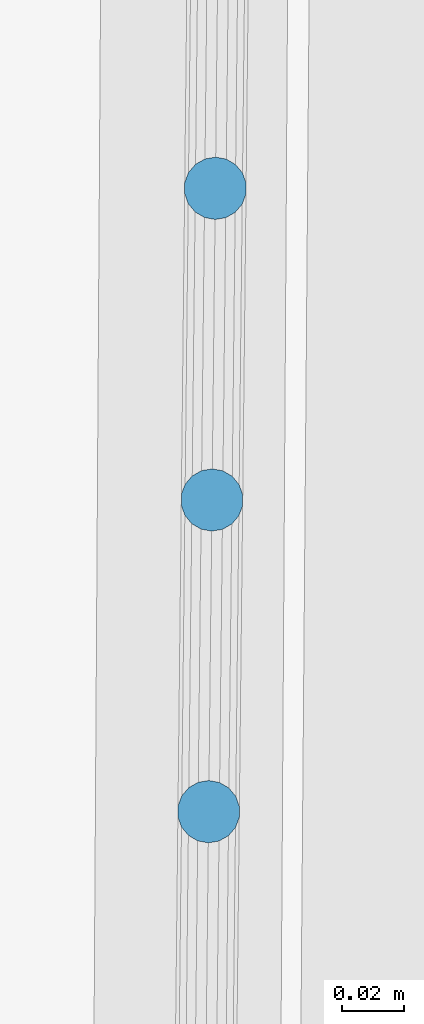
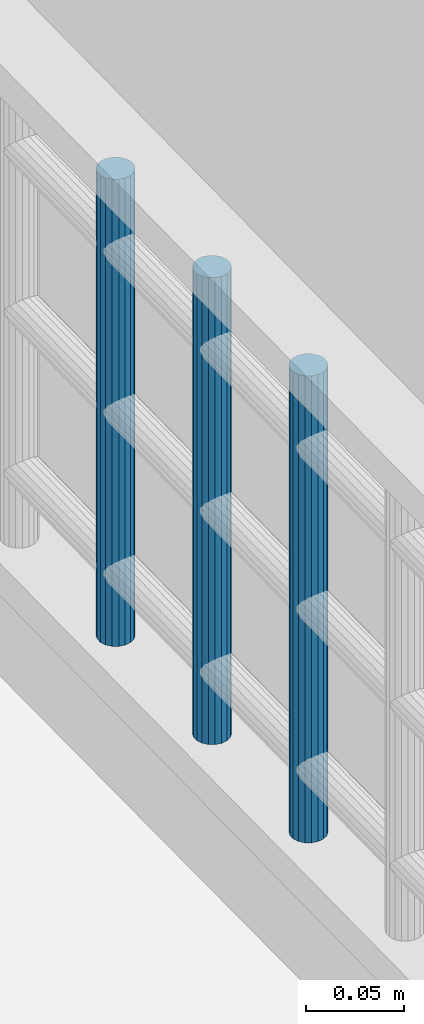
# One storey, part 38 of 97: 3 members, 1 element without a shape of its own.
"""IFC2X3 building model written with IfcOpenShell, lengths in centimetres."""

from ifc_helpers import new_model, entity, si_unit, converted_unit, direction, frame, origin, origin_with_axes, place, context, subcontext, project, spatial, faceted_brep, material, type_object, element, aggregate, save


model = new_model("IFC2X3")

# Units and contexts
model_context = context("Model", 3, precision=0.0001, world=origin(), true_north=direction((0.225632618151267, 0.974212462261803, 0.0)))
body_context = subcontext(model_context, "Body", "Model", "MODEL_VIEW")
ifc_project = project(units=[si_unit("LENGTHUNIT", "METRE", prefix="CENTI"), si_unit("AREAUNIT", "SQUARE_METRE", prefix="CENTI"), si_unit("VOLUMEUNIT", "CUBIC_METRE", prefix="CENTI"), converted_unit("PLANEANGLEUNIT", "DEGREE", entity("IfcRatioMeasure", 0.0174532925), si_unit("PLANEANGLEUNIT", "RADIAN"), dimensions=[0, 0, 0, 0, 0, 0, 0])], contexts=[model_context])

# Site, building, storey
site_placement = place(None, origin_with_axes())
site = spatial("IfcSite", under=ifc_project, at=site_placement, Name="Default Site", CompositionType="ELEMENT")
building_placement = place(site_placement, origin_with_axes())
building = spatial("IfcBuilding", under=site, at=building_placement, Name="Default Building", CompositionType="ELEMENT")
storey_placement = place(building_placement, origin_with_axes())
storey = spatial("IfcBuildingStorey", under=building, at=storey_placement, Name="Rez-de-chaussée", CompositionType="ELEMENT", Elevation=0.0)

# Assembly, members
building_element_proxy_type = type_object("IfcBuildingElementProxyType", Name="Type Object", PredefinedType="NOTDEFINED")
assembly_placement = place(storey_placement, frame((1067.41070761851, 134.057314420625, 12.0), z_axis=(0.0, 0.0, 1.0), x_axis=(-0.0108104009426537, -0.999941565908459, 0.0)))
assembly = element("IfcElementAssembly", 1, at=assembly_placement, inside=storey, type_object=building_element_proxy_type, Name="Panneau 1702033", ObjectType="Precast panel", PredefinedType="USERDEFINED")
ifc_material = material(Name="Aluminium satiné")
member_1_placement = place(assembly_placement, frame((46.9396919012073, 0.342020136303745, 31.0000002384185), z_axis=(0.0, 0.0, 1.0), x_axis=(0.499995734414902, -0.866027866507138, 0.0)))
member_1 = element("IfcMember", 2, at=member_1_placement, material=ifc_material, Name="4294967089", context=body_context, shape_type="Brep", body=[
    faceted_brep([(-9.54791801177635e-13, 5.71764857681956e-13, 4.9960036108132e-14), (-0.347295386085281, 5.71764857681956e-13, 4.9960036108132e-14), (-0.673647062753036, -0.118784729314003, 4.9960036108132e-14), (-0.93969117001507, -0.342025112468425, 4.9960036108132e-14), (-1.11333739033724, -0.642792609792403, 4.9960036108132e-14), (-1.17364232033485, -0.984811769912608, 4.9960036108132e-14), (-1.11333370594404, -1.3268323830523, 4.9960036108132e-14), (-0.939684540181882, -1.62759988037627, 4.9960036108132e-14), (-0.673639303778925, -1.85083688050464, 4.9960036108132e-14), (-0.347286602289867, -1.96961709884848, 4.9960036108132e-14), (1.02738978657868e-05, -1.9696145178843, 4.9960036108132e-14), (0.326361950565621, -1.85082978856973, 4.9960036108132e-14), (0.592404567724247, -1.62759198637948, 4.9960036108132e-14), (0.766050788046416, -1.3268244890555, 4.9960036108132e-14), (0.826357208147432, -0.984802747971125, 4.9960036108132e-14), (0.766048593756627, -0.642782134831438, 4.9960036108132e-14), (0.592397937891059, -0.34201721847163, 4.9960036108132e-14), (0.326352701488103, -0.118780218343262, 4.9960036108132e-14), (0.326352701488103, -0.118780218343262, -29.000000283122), (0.592397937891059, -0.34201721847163, -29.000000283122), (0.766048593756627, -0.642782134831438, -29.000000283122), (0.826357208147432, -0.984802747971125, -29.000000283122), (0.766050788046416, -1.3268244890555, -29.000000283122), (0.592404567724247, -1.62759198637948, -29.000000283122), (0.326361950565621, -1.85082978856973, -29.000000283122), (1.02738978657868e-05, -1.9696145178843, -29.000000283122), (-0.347286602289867, -1.96961709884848, -29.000000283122), (-0.673639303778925, -1.85083688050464, -29.000000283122), (-0.939684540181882, -1.62759988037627, -29.000000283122), (-1.11333370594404, -1.3268323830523, -29.000000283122), (-1.17364232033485, -0.984811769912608, -29.000000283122), (-1.11333739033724, -0.642792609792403, -29.000000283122), (-0.93969117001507, -0.342025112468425, -29.000000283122), (-0.673647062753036, -0.118784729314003, -29.000000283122), (-0.347295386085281, 5.71764857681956e-13, -29.000000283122), (-9.54791801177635e-13, 5.71764857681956e-13, -29.000000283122), (0.592398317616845, -0.342016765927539, 4.9960036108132e-14), (0.592398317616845, -0.342016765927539, -29.000000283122), (0.766047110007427, -0.642782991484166, 4.9960036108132e-14), (0.766047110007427, -0.642782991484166, -29.000000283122), (0.826357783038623, -0.984802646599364, 4.9960036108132e-14), (0.826357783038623, -0.984802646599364, -29.000000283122), (0.766051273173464, -1.32682457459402, 4.9960036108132e-14), (0.766051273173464, -1.32682457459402, -29.000000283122), (0.592404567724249, -1.62759198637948, 4.9960036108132e-14), (0.592404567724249, -1.62759198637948, -29.000000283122), (0.326362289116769, -1.85083019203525, 4.9960036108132e-14), (0.326362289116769, -1.85083019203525, -29.000000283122), (1.00742373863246e-05, -1.96961396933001, 4.9960036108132e-14), (1.00742373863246e-05, -1.96961396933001, -29.000000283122), (-0.347286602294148, -1.96961623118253, 4.9960036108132e-14), (-0.347286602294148, -1.96961623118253, -29.000000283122), (-0.673639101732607, -1.85083632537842, 4.9960036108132e-14), (-0.673639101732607, -1.85083632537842, -29.000000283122), (-0.939684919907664, -1.62760033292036, 4.9960036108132e-14), (-0.939684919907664, -1.62760033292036, -29.000000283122), (-1.11333445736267, -1.32683281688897, 4.9960036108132e-14), (-1.11333445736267, -1.32683281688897, -29.000000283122), (-1.17364289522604, -0.984811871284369, 4.9960036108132e-14), (-1.17364289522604, -0.984811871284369, -29.000000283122), (-1.11333687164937, -0.642792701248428, 4.9960036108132e-14), (-1.11333687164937, -0.642792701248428, -29.000000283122), (-0.939691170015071, -0.342025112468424, 4.9960036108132e-14), (-0.939691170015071, -0.342025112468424, -29.000000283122), (-0.673646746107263, -0.118785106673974, 4.9960036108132e-14), (-0.673646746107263, -0.118785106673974, -29.000000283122), (-0.347295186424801, -5.48553719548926e-07, 4.9960036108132e-14), (-0.347295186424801, -5.48553719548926e-07, -29.000000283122), (-9.40686381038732e-12, 1.71329144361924e-06, 4.9960036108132e-14), (-9.40686381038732e-12, 1.71329144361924e-06, -29.000000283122), (0.326352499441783, -0.118780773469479, 4.9960036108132e-14), (0.326352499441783, -0.118780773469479, -29.000000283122)], [[[0, 1, 2, 3, 4, 5, 6, 7, 8, 9, 10, 11, 12, 13, 14, 15, 16, 17]], [[18, 19, 20, 21, 22, 23, 24, 25, 26, 27, 28, 29, 30, 31, 32, 33, 34, 35]], [[17, 36, 37, 18]], [[16, 38, 39, 19]], [[15, 40, 41, 20]], [[14, 42, 43, 21]], [[13, 44, 45, 22]], [[12, 46, 47, 23]], [[11, 48, 49, 24]], [[10, 50, 51, 25]], [[9, 52, 53, 26]], [[8, 54, 55, 27]], [[7, 56, 57, 28]], [[6, 58, 59, 29]], [[5, 60, 61, 30]], [[4, 62, 63, 31]], [[3, 64, 65, 32]], [[2, 66, 67, 33]], [[1, 68, 69, 34]], [[0, 70, 71, 35]]]),
])
member_2_placement = place(assembly_placement, frame((56.9396913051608, 0.342020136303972, 31.0000002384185), z_axis=(0.0, 0.0, 1.0), x_axis=(0.499995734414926, -0.866027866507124, 0.0)))
member_2 = element("IfcMember", 3, at=member_2_placement, material=ifc_material, Name="4294967088", context=body_context, shape_type="Brep", body=[
    faceted_brep([(-8.10462807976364e-13, 3.60822483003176e-13, 4.9960036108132e-14), (-0.347295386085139, 3.60822483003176e-13, 4.9960036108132e-14), (-0.673647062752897, -0.118784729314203, 4.9960036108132e-14), (-0.939691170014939, -0.342025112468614, 4.9960036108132e-14), (-1.1133359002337, -0.642790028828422, 4.9960036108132e-14), (-1.17364232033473, -0.984811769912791, 4.9960036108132e-14), (-1.11333370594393, -1.32683238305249, 4.9960036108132e-14), (-0.939683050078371, -1.62759729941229, 4.9960036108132e-14), (-0.673637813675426, -1.85083429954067, 4.9960036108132e-14), (-0.347285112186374, -1.96961451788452, 4.9960036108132e-14), (1.02738979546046e-05, -1.96961451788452, 4.9960036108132e-14), (0.326361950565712, -1.85082978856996, 4.9960036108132e-14), (0.592406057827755, -1.62758940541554, 4.9960036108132e-14), (0.766050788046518, -1.32682448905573, 4.9960036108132e-14), (0.826357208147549, -0.984802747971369, 4.9960036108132e-14), (0.766048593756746, -0.642782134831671, 4.9960036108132e-14), (0.592397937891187, -0.342017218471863, 4.9960036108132e-14), (0.326352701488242, -0.118780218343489, 4.9960036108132e-14), (0.326352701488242, -0.118780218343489, -29.000000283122), (0.592397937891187, -0.342017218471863, -29.000000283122), (0.766048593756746, -0.642782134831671, -29.000000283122), (0.826357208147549, -0.984802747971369, -29.000000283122), (0.766050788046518, -1.32682448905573, -29.000000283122), (0.592406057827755, -1.62758940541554, -29.000000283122), (0.326361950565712, -1.85082978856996, -29.000000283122), (1.02738979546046e-05, -1.96961451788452, -29.000000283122), (-0.347285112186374, -1.96961451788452, -29.000000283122), (-0.673637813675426, -1.85083429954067, -29.000000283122), (-0.939683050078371, -1.62759729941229, -29.000000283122), (-1.11333370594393, -1.32683238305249, -29.000000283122), (-1.17364232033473, -0.984811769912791, -29.000000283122), (-1.1133359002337, -0.642790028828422, -29.000000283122), (-0.939691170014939, -0.342025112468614, -29.000000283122), (-0.673647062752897, -0.118784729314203, -29.000000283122), (-0.347295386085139, 3.60822483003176e-13, -29.000000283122), (-8.10462807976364e-13, 3.60822483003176e-13, -29.000000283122), (0.592398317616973, -0.342016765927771, 4.9960036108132e-14), (0.592398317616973, -0.342016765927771, -29.000000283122), (0.766047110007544, -0.642782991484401, 4.9960036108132e-14), (0.766047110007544, -0.642782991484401, -29.000000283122), (0.826357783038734, -0.984802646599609, 4.9960036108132e-14), (0.826357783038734, -0.984802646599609, -29.000000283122), (0.766051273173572, -1.32682457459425, 4.9960036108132e-14), (0.766051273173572, -1.32682457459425, -29.000000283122), (0.59240605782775, -1.62758940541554, 4.9960036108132e-14), (0.59240605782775, -1.62758940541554, -29.000000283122), (0.32636163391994, -1.85082941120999, 4.9960036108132e-14), (0.32636163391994, -1.85082941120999, -29.000000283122), (1.00742374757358e-05, -1.96961396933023, 4.9960036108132e-14), (1.00742374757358e-05, -1.96961396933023, -29.000000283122), (-0.347285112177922, -1.96961623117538, 4.9960036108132e-14), (-0.347285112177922, -1.96961623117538, -29.000000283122), (-0.673637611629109, -1.85083374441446, 4.9960036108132e-14), (-0.673637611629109, -1.85083374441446, -29.000000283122), (-0.939683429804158, -1.62759775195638, 4.9960036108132e-14), (-0.939683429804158, -1.62759775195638, -29.000000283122), (-1.11333222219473, -1.32683152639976, 4.9960036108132e-14), (-1.11333222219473, -1.32683152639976, -29.000000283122), (-1.17364289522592, -0.984811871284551, 4.9960036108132e-14), (-1.17364289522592, -0.984811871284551, -29.000000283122), (-1.11333638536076, -0.642789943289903, 4.9960036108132e-14), (-1.11333638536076, -0.642789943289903, -29.000000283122), (-0.939691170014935, -0.342025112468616, 4.9960036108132e-14), (-0.939691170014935, -0.342025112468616, -29.000000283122), (-0.673646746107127, -0.11878510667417, 4.9960036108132e-14), (-0.673646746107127, -0.11878510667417, -29.000000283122), (-0.34729518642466, -5.48553928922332e-07, 4.9960036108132e-14), (-0.34729518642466, -5.48553928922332e-07, -29.000000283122), (-9.26253472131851e-12, 1.71329122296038e-06, 4.9960036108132e-14), (-9.26253472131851e-12, 1.71329122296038e-06, -29.000000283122), (0.326352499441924, -0.1187807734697, 4.9960036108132e-14), (0.326352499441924, -0.1187807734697, -29.000000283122)], [[[0, 1, 2, 3, 4, 5, 6, 7, 8, 9, 10, 11, 12, 13, 14, 15, 16, 17]], [[18, 19, 20, 21, 22, 23, 24, 25, 26, 27, 28, 29, 30, 31, 32, 33, 34, 35]], [[17, 36, 37, 18]], [[16, 38, 39, 19]], [[15, 40, 41, 20]], [[14, 42, 43, 21]], [[13, 44, 45, 22]], [[12, 46, 47, 23]], [[11, 48, 49, 24]], [[10, 50, 51, 25]], [[9, 52, 53, 26]], [[8, 54, 55, 27]], [[7, 56, 57, 28]], [[6, 58, 59, 29]], [[5, 60, 61, 30]], [[4, 62, 63, 31]], [[3, 64, 65, 32]], [[2, 66, 67, 33]], [[1, 68, 69, 34]], [[0, 70, 71, 35]]]),
])
member_3_placement = place(assembly_placement, frame((66.9396936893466, 0.342020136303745, 31.0000002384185), z_axis=(0.0, 0.0, 1.0), x_axis=(0.500008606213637, -0.866020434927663, 0.0)))
member_3 = element("IfcMember", 4, at=member_3_placement, material=ifc_material, Name="4294967087", context=body_context, shape_type="Brep", body=[
    faceted_brep([(-9.71445146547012e-13, 2.88657986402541e-13, 4.44089209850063e-14), (-0.347298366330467, 3.77475828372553e-13, 4.44089209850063e-14), (-0.67364882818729, -0.118774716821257, 4.44089209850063e-14), (-0.939696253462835, -0.342011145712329, 4.44089209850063e-14), (-1.11334843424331, -0.642778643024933, 4.44089209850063e-14), (-1.17365993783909, -0.984799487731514, 4.44089209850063e-14), (-1.11335342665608, -1.32681583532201, 4.44089209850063e-14), (-0.939710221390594, -1.62758849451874, 4.44089209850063e-14), (-0.673668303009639, -1.85082944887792, 4.44089209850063e-14), (-0.347317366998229, -1.96961451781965, 4.44089209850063e-14), (-1.9000668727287e-05, -1.96961451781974, 4.44089209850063e-14), (0.326331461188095, -1.85083980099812, 4.44089209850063e-14), (0.592378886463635, -1.62760337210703, 4.44089209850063e-14), (0.766031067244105, -1.32683587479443, 4.44089209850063e-14), (0.8263425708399, -0.98481503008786, 4.44089209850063e-14), (0.766036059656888, -0.642798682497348, 4.44089209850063e-14), (0.592392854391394, -0.342026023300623, 4.44089209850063e-14), (0.326350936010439, -0.118785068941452, 4.44089209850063e-14), (0.326350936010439, -0.118785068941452, -29.000000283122), (0.592392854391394, -0.342026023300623, -29.000000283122), (0.766036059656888, -0.642798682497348, -29.000000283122), (0.8263425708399, -0.98481503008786, -29.000000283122), (0.766031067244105, -1.32683587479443, -29.000000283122), (0.592378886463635, -1.62760337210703, -29.000000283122), (0.326331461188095, -1.85083980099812, -29.000000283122), (-1.9000668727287e-05, -1.96961451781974, -29.000000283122), (-0.347317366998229, -1.96961451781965, -29.000000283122), (-0.673668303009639, -1.85082944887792, -29.000000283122), (-0.939710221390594, -1.62758849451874, -29.000000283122), (-1.11335342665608, -1.32681583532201, -29.000000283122), (-1.17365993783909, -0.984799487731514, -29.000000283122), (-1.11334843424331, -0.642778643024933, -29.000000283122), (-0.939696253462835, -0.342011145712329, -29.000000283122), (-0.67364882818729, -0.118774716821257, -29.000000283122), (-0.347298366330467, 3.77475828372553e-13, -29.000000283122), (-9.71445146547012e-13, 2.88657986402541e-13, -29.000000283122), (0.5923932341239, -0.342025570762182, 4.44089209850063e-14), (0.5923932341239, -0.342025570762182, -29.000000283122), (0.766039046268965, -0.642796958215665, 4.44089209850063e-14), (0.766039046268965, -0.642796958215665, -29.000000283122), (0.826339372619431, -0.984815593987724, 4.44089209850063e-14), (0.826339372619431, -0.984815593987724, -29.000000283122), (0.766031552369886, -1.32683596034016, 4.44089209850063e-14), (0.766031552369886, -1.32683596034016, -29.000000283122), (0.592378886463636, -1.62760337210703, 4.44089209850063e-14), (0.592378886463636, -1.62760337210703, -29.000000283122), (0.326331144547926, -1.85083942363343, 4.44089209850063e-14), (0.326331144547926, -1.85083942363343, -29.000000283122), (-1.78899707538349e-05, -1.96961756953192, 4.44089209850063e-14), (-1.78899707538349e-05, -1.96961756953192, -29.000000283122), (-0.347317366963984, -1.9696110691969, 4.44089209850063e-14), (-0.347317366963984, -1.9696110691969, -29.000000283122), (-0.673668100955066, -1.8508288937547, 4.44089209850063e-14), (-0.673668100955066, -1.8508288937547, -29.000000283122), (-0.939710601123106, -1.62758894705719, 4.44089209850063e-14), (-0.939710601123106, -1.62758894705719, -29.000000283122), (-1.11335641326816, -1.3268175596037, 4.44089209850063e-14), (-1.11335641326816, -1.3268175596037, -29.000000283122), (-1.17365673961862, -0.984798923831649, 4.44089209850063e-14), (-1.17365673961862, -0.984798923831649, -29.000000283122), (-1.11334891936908, -0.642778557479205, 4.44089209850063e-14), (-1.11334891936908, -0.642778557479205, -29.000000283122), (-0.939696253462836, -0.342011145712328, 4.44089209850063e-14), (-0.939696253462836, -0.342011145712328, -29.000000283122), (-0.673648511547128, -0.118775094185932, 4.44089209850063e-14), (-0.673648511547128, -0.118775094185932, -29.000000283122), (-0.347299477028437, 3.05171254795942e-06, 4.44089209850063e-14), (-0.347299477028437, 3.05171254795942e-06, -29.000000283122), (-3.52157732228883e-11, -3.44862246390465e-06, 4.44089209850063e-14), (-3.52157732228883e-11, -3.44862246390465e-06, -29.000000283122), (0.32635073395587, -0.118785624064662, 4.44089209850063e-14), (0.32635073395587, -0.118785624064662, -29.000000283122)], [[[0, 1, 2, 3, 4, 5, 6, 7, 8, 9, 10, 11, 12, 13, 14, 15, 16, 17]], [[18, 19, 20, 21, 22, 23, 24, 25, 26, 27, 28, 29, 30, 31, 32, 33, 34, 35]], [[17, 36, 37, 18]], [[16, 38, 39, 19]], [[15, 40, 41, 20]], [[14, 42, 43, 21]], [[13, 44, 45, 22]], [[12, 46, 47, 23]], [[11, 48, 49, 24]], [[10, 50, 51, 25]], [[9, 52, 53, 26]], [[8, 54, 55, 27]], [[7, 56, 57, 28]], [[6, 58, 59, 29]], [[5, 60, 61, 30]], [[4, 62, 63, 31]], [[3, 64, 65, 32]], [[2, 66, 67, 33]], [[1, 68, 69, 34]], [[0, 70, 71, 35]]]),
])
aggregate(assembly, [member_1, member_2, member_3])

save(model, "model.ifc")
